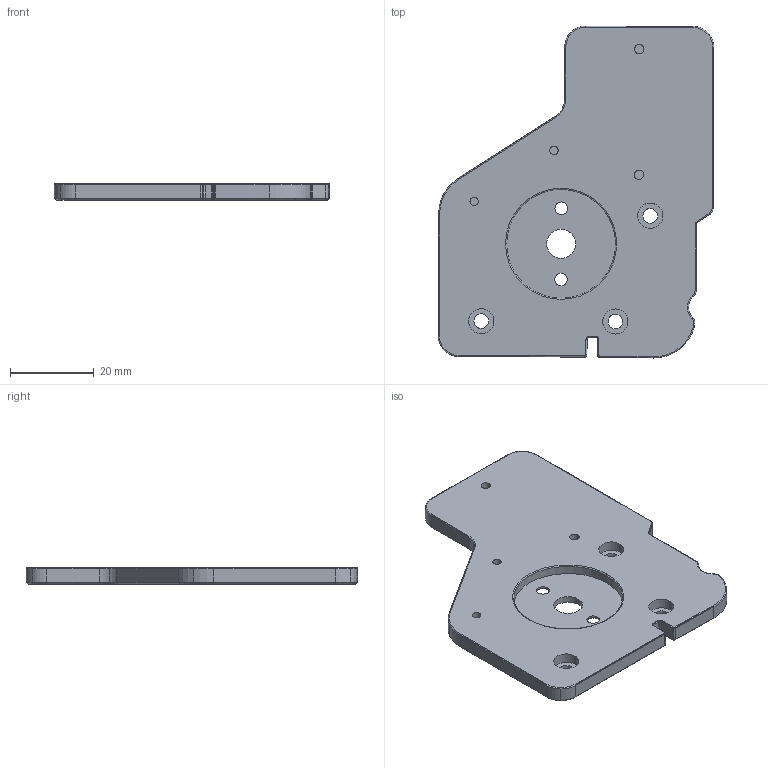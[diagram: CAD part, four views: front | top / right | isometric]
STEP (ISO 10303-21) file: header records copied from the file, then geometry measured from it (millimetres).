
FILE_DESCRIPTION(('STEP AP214'),'1');
FILE_NAME('New Motor Capstan Support P03 Large v47.stp','2020-10-06T14:56:31',(' '),(' '),'Spatial InterOp 3D',' ',' ');
FILE_SCHEMA(('AUTOMOTIVE_DESIGN { 1 0 10303 214 1 1 1 1 }'));
Length unit declared in the file: metre
Products named in the file (1): Corps11
Bounding box: 65.73 x 79.22 x 4.01 mm (x, y, z)
Volume: 14647.3 mm3; surface area: 9521.2 mm2
Topology: 1 solids, 1 shells, 164 faces, 412 edges, 258 vertices
Faces by surface type: cylinder 84, plane 34, cone 26, torus 20
Entity records: 5027 total; most frequent: DIRECTION 984, CARTESIAN_POINT 835, ORIENTED_EDGE 824, EDGE_CURVE 412, AXIS2_PLACEMENT_3D 407, VERTEX_POINT 258, CIRCLE 230, EDGE_LOOP 184
